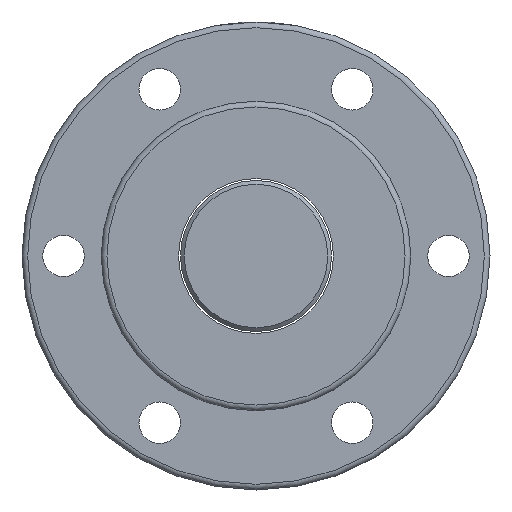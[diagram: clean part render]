
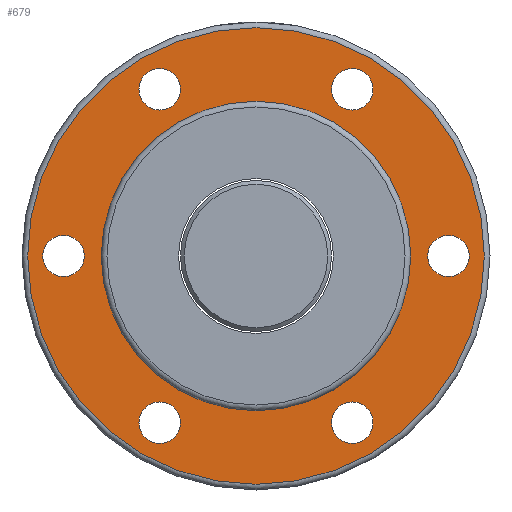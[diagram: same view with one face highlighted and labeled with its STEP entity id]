
A CAD part, left-side view. The second image highlights one B-rep face of the part: STEP entity #679.
In plain terms, the highlighted planar face has unit normal (-1, 0, 0).
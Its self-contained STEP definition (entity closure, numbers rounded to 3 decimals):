
#110 = DIRECTION ( 'NONE',  ( 0., 0., 1. ) ) ;
#117 = ORIENTED_EDGE ( 'NONE', *, *, #644, .T. ) ;
#142 = VERTEX_POINT ( 'NONE', #1613 ) ;
#166 = CARTESIAN_POINT ( 'NONE',  ( -33., 25.5, -38.667 ) ) ;
#169 = EDGE_LOOP ( 'NONE', ( #2772 ) ) ;
#197 = DIRECTION ( 'NONE',  ( 0., 0., 1. ) ) ;
#212 = DIRECTION ( 'NONE',  ( -1., 0., 0. ) ) ;
#253 = DIRECTION ( 'NONE',  ( -1., 0., 0. ) ) ;
#325 = FACE_BOUND ( 'NONE', #1080, .T. ) ;
#353 = VERTEX_POINT ( 'NONE', #2502 ) ;
#359 = EDGE_LOOP ( 'NONE', ( #117 ) ) ;
#380 = DIRECTION ( 'NONE',  ( 0., 0., 1. ) ) ;
#490 = FACE_BOUND ( 'NONE', #2601, .T. ) ;
#504 = DIRECTION ( 'NONE',  ( -1., 0., 0. ) ) ;
#505 = CIRCLE ( 'NONE', #1115, 5.5 ) ;
#520 = EDGE_CURVE ( 'NONE', #1898, #1898, #2600, .T. ) ;
#557 = EDGE_CURVE ( 'NONE', #353, #353, #2325, .T. ) ;
#577 = CARTESIAN_POINT ( 'NONE',  ( -33., 25.5, -44.167 ) ) ;
#623 = CARTESIAN_POINT ( 'NONE',  ( -33., 51., 5.5 ) ) ;
#644 = EDGE_CURVE ( 'NONE', #142, #142, #1111, .T. ) ;
#679 = ADVANCED_FACE ( 'NONE', ( #1160, #490, #2725, #1146, #325, #758, #1580, #2055 ), #743, .T. ) ;
#707 = EDGE_CURVE ( 'NONE', #2213, #2213, #505, .T. ) ;
#733 = ORIENTED_EDGE ( 'NONE', *, *, #2262, .F. ) ;
#743 = PLANE ( 'NONE',  #1301 ) ;
#758 = FACE_BOUND ( 'NONE', #1139, .T. ) ;
#792 = CIRCLE ( 'NONE', #2443, 60.5 ) ;
#809 = DIRECTION ( 'NONE',  ( 0., 0., 1. ) ) ;
#873 = CARTESIAN_POINT ( 'NONE',  ( -33., -25.5, 44.167 ) ) ;
#944 = CARTESIAN_POINT ( 'NONE',  ( -33., 50.75, 0. ) ) ;
#1003 = CARTESIAN_POINT ( 'NONE',  ( -33., 0., 0. ) ) ;
#1024 = AXIS2_PLACEMENT_3D ( 'NONE', #2345, #1919, #809 ) ;
#1059 = VERTEX_POINT ( 'NONE', #1478 ) ;
#1080 = EDGE_LOOP ( 'NONE', ( #1415 ) ) ;
#1100 = DIRECTION ( 'NONE',  ( 1., 0., 0. ) ) ;
#1102 = CARTESIAN_POINT ( 'NONE',  ( -33., 25.5, 44.164 ) ) ;
#1111 = CIRCLE ( 'NONE', #2300, 41. ) ;
#1114 = CIRCLE ( 'NONE', #1719, 5.5 ) ;
#1115 = AXIS2_PLACEMENT_3D ( 'NONE', #1809, #1627, #2041 ) ;
#1120 = DIRECTION ( 'NONE',  ( 0., 0., 1. ) ) ;
#1139 = EDGE_LOOP ( 'NONE', ( #1976 ) ) ;
#1146 = FACE_BOUND ( 'NONE', #2401, .T. ) ;
#1160 = FACE_BOUND ( 'NONE', #169, .T. ) ;
#1301 = AXIS2_PLACEMENT_3D ( 'NONE', #944, #504, #110 ) ;
#1366 = ORIENTED_EDGE ( 'NONE', *, *, #2350, .F. ) ;
#1389 = CIRCLE ( 'NONE', #1024, 5.5 ) ;
#1415 = ORIENTED_EDGE ( 'NONE', *, *, #557, .F. ) ;
#1478 = CARTESIAN_POINT ( 'NONE',  ( -33., -25.5, -38.667 ) ) ;
#1510 = DIRECTION ( 'NONE',  ( -1., 0., 0. ) ) ;
#1580 = FACE_BOUND ( 'NONE', #359, .T. ) ;
#1613 = CARTESIAN_POINT ( 'NONE',  ( -33., 0., -41. ) ) ;
#1627 = DIRECTION ( 'NONE',  ( -1., 0., 0. ) ) ;
#1634 = ORIENTED_EDGE ( 'NONE', *, *, #2637, .F. ) ;
#1695 = DIRECTION ( 'NONE',  ( 1., 0., 0. ) ) ;
#1713 = CARTESIAN_POINT ( 'NONE',  ( -33., 0., -60.5 ) ) ;
#1719 = AXIS2_PLACEMENT_3D ( 'NONE', #577, #2292, #380 ) ;
#1809 = CARTESIAN_POINT ( 'NONE',  ( -33., 51., 0. ) ) ;
#1898 = VERTEX_POINT ( 'NONE', #2323 ) ;
#1911 = VERTEX_POINT ( 'NONE', #166 ) ;
#1919 = DIRECTION ( 'NONE',  ( -1., 0., 0. ) ) ;
#1939 = AXIS2_PLACEMENT_3D ( 'NONE', #1970, #1510, #197 ) ;
#1965 = AXIS2_PLACEMENT_3D ( 'NONE', #1102, #253, #1120 ) ;
#1970 = CARTESIAN_POINT ( 'NONE',  ( -33., -25.5, -44.167 ) ) ;
#1971 = EDGE_CURVE ( 'NONE', #2381, #2381, #1389, .T. ) ;
#1976 = ORIENTED_EDGE ( 'NONE', *, *, #520, .F. ) ;
#1994 = VERTEX_POINT ( 'NONE', #1713 ) ;
#2041 = DIRECTION ( 'NONE',  ( 0., 0., 1. ) ) ;
#2055 = FACE_OUTER_BOUND ( 'NONE', #2295, .T. ) ;
#2123 = CARTESIAN_POINT ( 'NONE',  ( -33., -51., 5.5 ) ) ;
#2187 = CARTESIAN_POINT ( 'NONE',  ( -33., 0., 0. ) ) ;
#2199 = DIRECTION ( 'NONE',  ( 0., 0., 1. ) ) ;
#2213 = VERTEX_POINT ( 'NONE', #623 ) ;
#2262 = EDGE_CURVE ( 'NONE', #1911, #1911, #1114, .T. ) ;
#2292 = DIRECTION ( 'NONE',  ( -1., 0., 0. ) ) ;
#2295 = EDGE_LOOP ( 'NONE', ( #1366 ) ) ;
#2300 = AXIS2_PLACEMENT_3D ( 'NONE', #2187, #1100, #2380 ) ;
#2323 = CARTESIAN_POINT ( 'NONE',  ( -33., 25.5, 49.664 ) ) ;
#2325 = CIRCLE ( 'NONE', #2417, 5.5 ) ;
#2345 = CARTESIAN_POINT ( 'NONE',  ( -33., -51., 0. ) ) ;
#2350 = EDGE_CURVE ( 'NONE', #1994, #1994, #792, .T. ) ;
#2352 = DIRECTION ( 'NONE',  ( 0., 0., -1. ) ) ;
#2380 = DIRECTION ( 'NONE',  ( 0., 0., -1. ) ) ;
#2381 = VERTEX_POINT ( 'NONE', #2123 ) ;
#2401 = EDGE_LOOP ( 'NONE', ( #1634 ) ) ;
#2417 = AXIS2_PLACEMENT_3D ( 'NONE', #873, #212, #2199 ) ;
#2443 = AXIS2_PLACEMENT_3D ( 'NONE', #1003, #1695, #2352 ) ;
#2460 = ORIENTED_EDGE ( 'NONE', *, *, #1971, .F. ) ;
#2502 = CARTESIAN_POINT ( 'NONE',  ( -33., -25.5, 49.667 ) ) ;
#2572 = EDGE_LOOP ( 'NONE', ( #733 ) ) ;
#2600 = CIRCLE ( 'NONE', #1965, 5.5 ) ;
#2601 = EDGE_LOOP ( 'NONE', ( #2460 ) ) ;
#2637 = EDGE_CURVE ( 'NONE', #1059, #1059, #2669, .T. ) ;
#2669 = CIRCLE ( 'NONE', #1939, 5.5 ) ;
#2725 = FACE_BOUND ( 'NONE', #2572, .T. ) ;
#2772 = ORIENTED_EDGE ( 'NONE', *, *, #707, .F. ) ;
